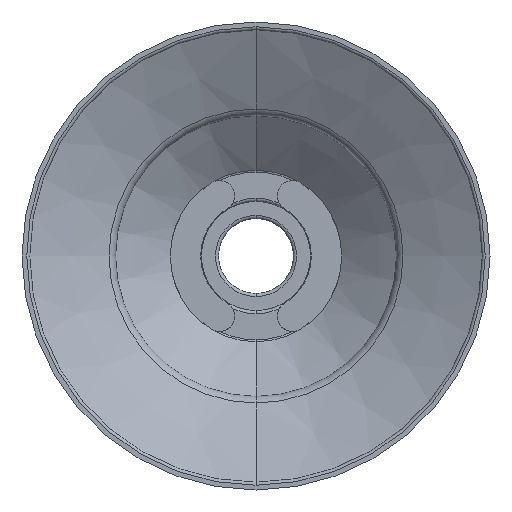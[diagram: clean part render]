
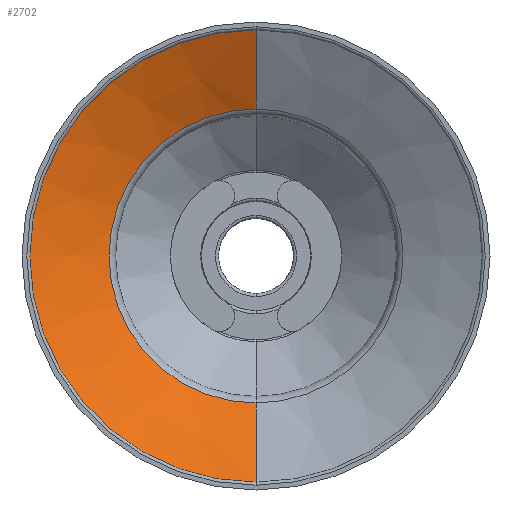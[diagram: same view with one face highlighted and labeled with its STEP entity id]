
A CAD part, front view. The second image highlights one B-rep face of the part: STEP entity #2702.
In plain terms, the highlighted conical face has half-angle 62.841 degrees and reference radius 14.487 mm.
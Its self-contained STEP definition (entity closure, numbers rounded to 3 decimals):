
#21 = VERTEX_POINT ( 'NONE', #2084 ) ;
#169 = EDGE_LOOP ( 'NONE', ( #2541, #2250, #1936, #1972 ) ) ;
#216 = DIRECTION ( 'NONE',  ( 0., 0., 1. ) ) ;
#255 = DIRECTION ( 'NONE',  ( 0., 0., -1. ) ) ;
#339 = VECTOR ( 'NONE', #1706, 1000. ) ;
#411 = CONICAL_SURFACE ( 'NONE', #2254, 14.487, 1.097 ) ;
#553 = EDGE_CURVE ( 'NONE', #1730, #708, #2580, .T. ) ;
#579 = AXIS2_PLACEMENT_3D ( 'NONE', #1288, #1484, #216 ) ;
#580 = AXIS2_PLACEMENT_3D ( 'NONE', #1872, #1267, #604 ) ;
#604 = DIRECTION ( 'NONE',  ( 0., 0., 1. ) ) ;
#613 = EDGE_CURVE ( 'NONE', #1730, #1596, #1133, .T. ) ;
#708 = VERTEX_POINT ( 'NONE', #1513 ) ;
#929 = CARTESIAN_POINT ( 'NONE',  ( 0., -20.014, 9.414 ) ) ;
#1021 = DIRECTION ( 'NONE',  ( 0., -0.456, 0.89 ) ) ;
#1051 = CARTESIAN_POINT ( 'NONE',  ( 0., -22.616, 14.487 ) ) ;
#1133 = CIRCLE ( 'NONE', #579, 9.414 ) ;
#1183 = EDGE_CURVE ( 'NONE', #708, #21, #1722, .T. ) ;
#1213 = EDGE_CURVE ( 'NONE', #1596, #21, #2148, .T. ) ;
#1267 = DIRECTION ( 'NONE',  ( 0., 1., 0. ) ) ;
#1288 = CARTESIAN_POINT ( 'NONE',  ( 0., -20.014, 0. ) ) ;
#1358 = DIRECTION ( 'NONE',  ( 0., -1., 0. ) ) ;
#1380 = FACE_OUTER_BOUND ( 'NONE', #169, .T. ) ;
#1484 = DIRECTION ( 'NONE',  ( 0., 1., 0. ) ) ;
#1513 = CARTESIAN_POINT ( 'NONE',  ( 0., -22.616, -14.487 ) ) ;
#1596 = VERTEX_POINT ( 'NONE', #929 ) ;
#1706 = DIRECTION ( 'NONE',  ( 0., -0.456, -0.89 ) ) ;
#1722 = CIRCLE ( 'NONE', #580, 14.487 ) ;
#1730 = VERTEX_POINT ( 'NONE', #2031 ) ;
#1872 = CARTESIAN_POINT ( 'NONE',  ( 0., -22.616, 0. ) ) ;
#1878 = CARTESIAN_POINT ( 'NONE',  ( 0., -22.616, -14.487 ) ) ;
#1936 = ORIENTED_EDGE ( 'NONE', *, *, #1183, .F. ) ;
#1972 = ORIENTED_EDGE ( 'NONE', *, *, #553, .F. ) ;
#1982 = CARTESIAN_POINT ( 'NONE',  ( 0., -22.616, 0. ) ) ;
#2031 = CARTESIAN_POINT ( 'NONE',  ( 0., -20.014, -9.414 ) ) ;
#2084 = CARTESIAN_POINT ( 'NONE',  ( 0., -22.616, 14.487 ) ) ;
#2148 = LINE ( 'NONE', #1051, #2598 ) ;
#2250 = ORIENTED_EDGE ( 'NONE', *, *, #1213, .T. ) ;
#2254 = AXIS2_PLACEMENT_3D ( 'NONE', #1982, #1358, #255 ) ;
#2541 = ORIENTED_EDGE ( 'NONE', *, *, #613, .T. ) ;
#2580 = LINE ( 'NONE', #1878, #339 ) ;
#2598 = VECTOR ( 'NONE', #1021, 1000. ) ;
#2702 = ADVANCED_FACE ( 'NONE', ( #1380 ), #411, .F. ) ;
